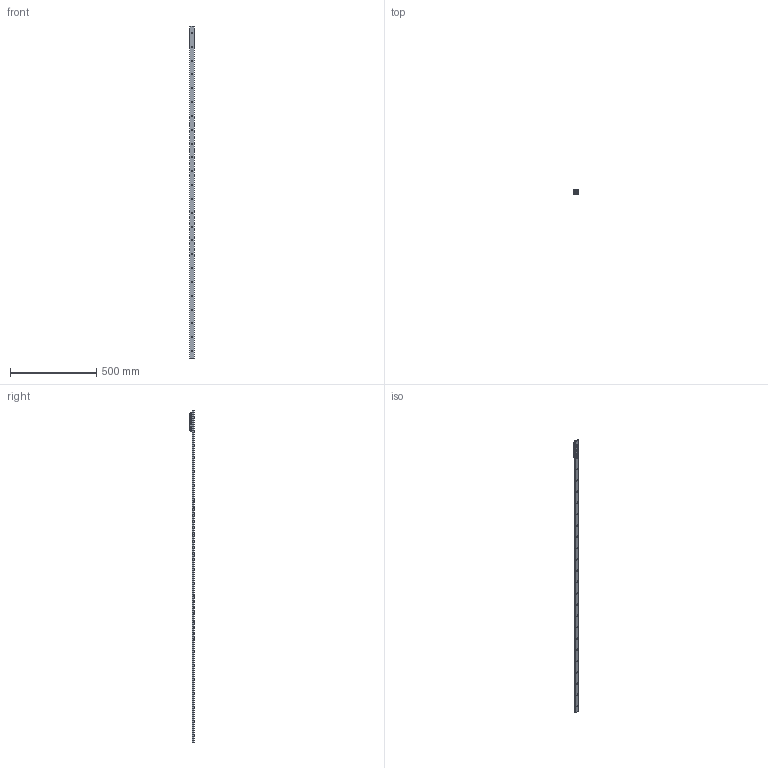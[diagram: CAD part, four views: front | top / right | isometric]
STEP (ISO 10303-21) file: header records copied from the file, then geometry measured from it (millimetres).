
FILE_DESCRIPTION( ( 'STEP AP214' ), '1' );
FILE_NAME( 'p:/temp/worker_21/temp/exporttempdir_4716_92_l1MQE/format_1/TGV-01920_1_RV28G-3.stp', '2020-11-20T16:37:29', ( 'License CC BY-ND 4.0' ), ( 'CADENAS' ), ' ', 'PARTsolutions', ' ' );
FILE_SCHEMA( ( 'AUTOMOTIVE_DESIGN { 1 0 10303 214 1 1 1 1 }' ) );
Length unit declared in the file: millimetre
Products named in the file (6): TGV-01920/1/RV28G-3; _TGV28-1920-(3-1); _RV28G-3-slider; _RGNV28R; _RGAV28R; _WR28G-01
Assembly tree (7 placements, depth 2):
  TGV-01920/1/RV28G-3
    _TGV28-1920-(3-1)
    _RV28G-3-slider
    _RGNV28R  x2
    _RGAV28R
    _WR28G-01  x2
Bounding box: 28 x 24 x 1920 mm (x, y, z)
Volume: 313701.6 mm3; surface area: 200743.8 mm2
Topology: 7 solids, 7 shells, 1060 faces, 2765 edges, 1801 vertices
Faces by surface type: plane 657, cylinder 304, cone 64, bspline 26, torus 9
Full cylindrical faces by diameter (mm): 1.27 x4, 2 x2, 2.5 x6, 4 x4, 4.134 x4, 4.2 x3, 5 x3, 5.5 x3, 5.75 x24, 7 x5, 7.5 x1, 8 x6, 10.8 x3, 17 x3, 20.75 x6
Entity records: 25731 total; most frequent: CARTESIAN_POINT 4067, DIRECTION 3440, ORIENTED_EDGE 3138, EDGE_CURVE 1569, AXIS2_PLACEMENT_3D 1325, VERTEX_POINT 1101, EDGE_LOOP 935, LINE 790
